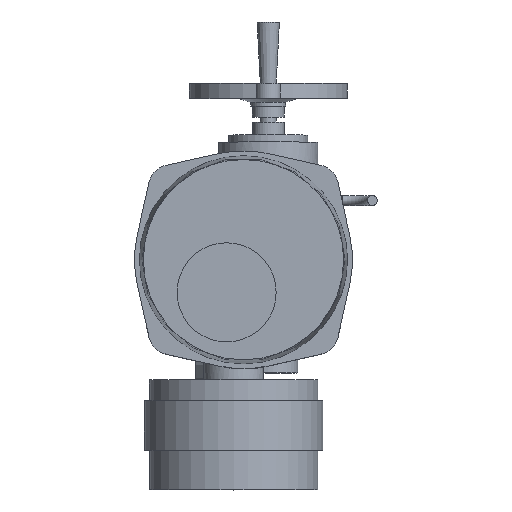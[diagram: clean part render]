
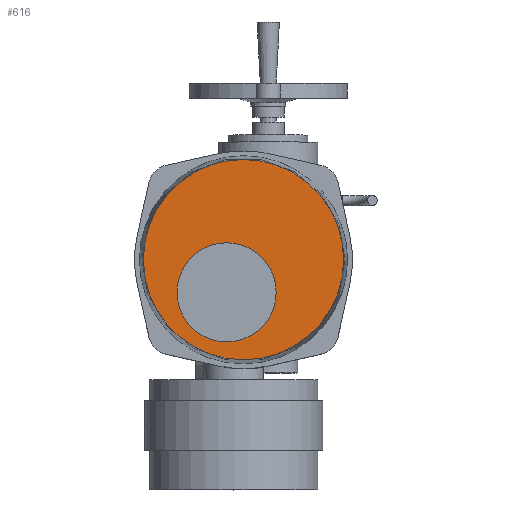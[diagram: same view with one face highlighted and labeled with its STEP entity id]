
A CAD part, top view. The second image highlights one B-rep face of the part: STEP entity #616.
In plain terms, the highlighted planar face has unit normal (0, 0, 1).
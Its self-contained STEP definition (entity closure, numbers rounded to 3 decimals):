
#616=ADVANCED_FACE('',(#8172,#8174),#8176,.T.);
#8172=FACE_BOUND('',#8173,.T.);
#8173=EDGE_LOOP('',(#14059));
#8174=FACE_BOUND('',#8175,.T.);
#8175=EDGE_LOOP('',(#14060));
#8176=PLANE('',#8177);
#8177=AXIS2_PLACEMENT_3D('',#8178,#8179,#8180);
#8178=CARTESIAN_POINT('',(20.,40.,473.));
#8179=DIRECTION('',(0.,0.,1.));
#8180=DIRECTION('',(-1.,0.,0.));
#14059=ORIENTED_EDGE('',*,*,#18684,.T.);
#14060=ORIENTED_EDGE('',*,*,#18687,.F.);
#18684=EDGE_CURVE('',#21190,#21190,#21191,.T.);
#18687=EDGE_CURVE('',#21196,#21196,#21197,.T.);
#21190=VERTEX_POINT('',#26178);
#21191=CIRCLE('',#26179,101.069);
#21196=VERTEX_POINT('',#26193);
#21197=CIRCLE('',#26194,50.);
#26178=CARTESIAN_POINT('',(-81.069,40.,473.));
#26179=AXIS2_PLACEMENT_3D('',#26180,#26181,#26182);
#26180=CARTESIAN_POINT('',(20.,40.,473.));
#26181=DIRECTION('',(0.,0.,1.));
#26182=DIRECTION('',(-1.,0.,0.));
#26193=CARTESIAN_POINT('',(-47.,7.,473.));
#26194=AXIS2_PLACEMENT_3D('',#26195,#26196,#26197);
#26195=CARTESIAN_POINT('',(3.,7.,473.));
#26196=DIRECTION('',(0.,0.,1.));
#26197=DIRECTION('',(-1.,0.,0.));
